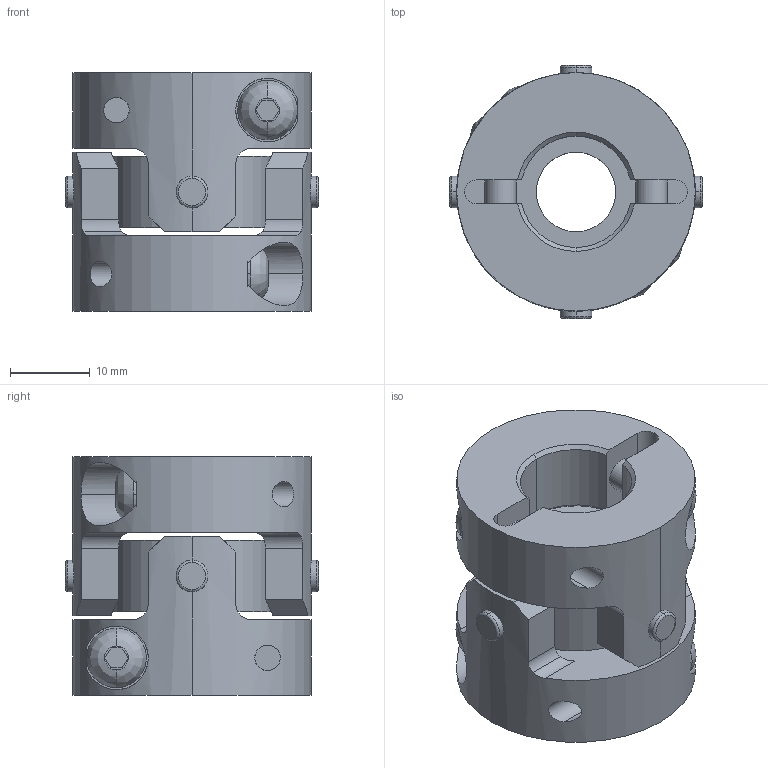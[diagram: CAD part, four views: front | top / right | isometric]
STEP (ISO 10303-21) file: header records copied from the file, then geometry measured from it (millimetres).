
FILE_DESCRIPTION((''),'2;1');
FILE_NAME('UA-30C-11×14.stp','2013-05-21T14:59:07',(''),(''),'AutoCAD STEP 2000i','AutoCAD 2000i',', , ');
FILE_SCHEMA(('CONFIG_CONTROL_DESIGN'));
Length unit declared in the file: millimetre
Products named in the file (8): UA-30C-11×11; 忣兜1; UA-3002-D11-1; BTN-M4; UA-3002-D11; UA-3002-D06-1; UA-3002-D06; UA30-SEN
Assembly tree (10 placements, depth 3):
  UA-30C-11×11
    忣兜1
    UA-3002-D11-1
      BTN-M4
    UA-3002-D11
      BTN-M4
    UA-3002-D06-1
      BTN-M4
    UA-3002-D06
      BTN-M4
    UA30-SEN
Bounding box: 31.82 x 31.82 x 30 mm (x, y, z)
Volume: 13879 mm3; surface area: 8466.8 mm2
Topology: 1 solids, 1 shells, 206 faces, 554 edges, 364 vertices
Faces by surface type: cylinder 96, plane 78, cone 16, bspline 8, torus 8
Entity records: 8475 total; most frequent: CARTESIAN_POINT 3119, ORIENTED_EDGE 1108, DIRECTION 1072, EDGE_CURVE 554, AXIS2_PLACEMENT_3D 413, VERTEX_POINT 364, VECTOR 246, LINE 246
